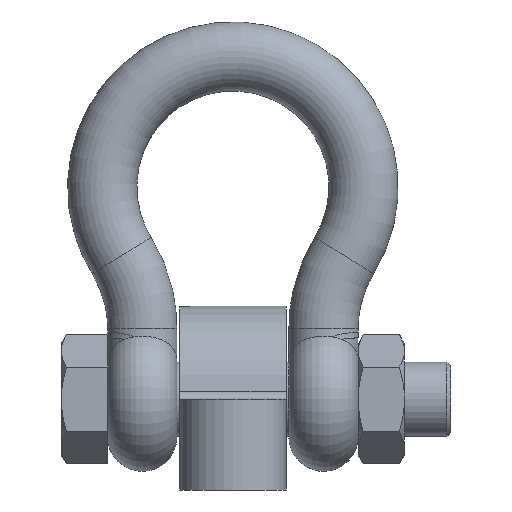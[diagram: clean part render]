
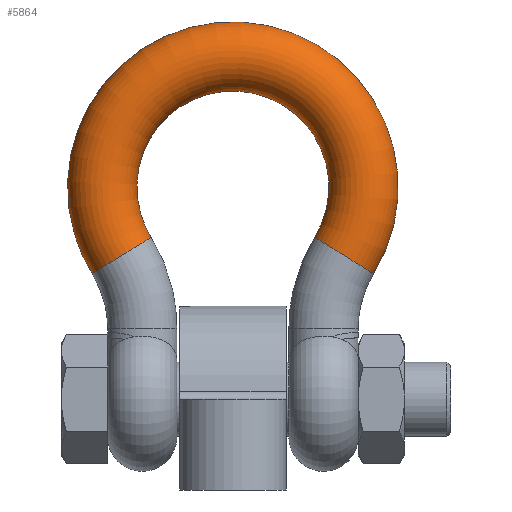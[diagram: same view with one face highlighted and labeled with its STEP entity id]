
A CAD part, left-side view. The second image highlights one B-rep face of the part: STEP entity #5864.
In plain terms, the highlighted toroidal (fillet/blend) face has major radius 122.5 mm and minor radius 32.5 mm.
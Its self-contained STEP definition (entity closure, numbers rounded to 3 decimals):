
#25=TOROIDAL_SURFACE('',#6249,122.5,32.5);
#452=FACE_BOUND('',#1272,.T.);
#541=CIRCLE('',#6231,32.5);
#548=CIRCLE('',#6245,32.5);
#895=FACE_OUTER_BOUND('',#1271,.T.);
#1271=EDGE_LOOP('',(#5330));
#1272=EDGE_LOOP('',(#5331));
#2819=VERTEX_POINT('',#10906);
#2823=VERTEX_POINT('',#10938);
#3649=EDGE_CURVE('',#2819,#2819,#541,.T.);
#3658=EDGE_CURVE('',#2823,#2823,#548,.T.);
#5330=ORIENTED_EDGE('',*,*,#3649,.T.);
#5331=ORIENTED_EDGE('',*,*,#3658,.T.);
#5864=ADVANCED_FACE('',(#895,#452),#25,.T.);
#6231=AXIS2_PLACEMENT_3D('',#10907,#7383,#7384);
#6245=AXIS2_PLACEMENT_3D('',#10939,#7411,#7412);
#6249=AXIS2_PLACEMENT_3D('',#10943,#7419,#7420);
#7383=DIRECTION('center_axis',(-0.524,0.851,0.));
#7384=DIRECTION('ref_axis',(-0.851,-0.524,0.));
#7411=DIRECTION('center_axis',(0.524,0.851,0.));
#7412=DIRECTION('ref_axis',(0.851,-0.524,0.));
#7419=DIRECTION('center_axis',(0.,0.,1.));
#7420=DIRECTION('ref_axis',(-1.,0.,0.));
#10906=CARTESIAN_POINT('',(-76.634,151.806,0.));
#10907=CARTESIAN_POINT('Origin',(-104.307,134.764,0.));
#10938=CARTESIAN_POINT('',(76.634,151.806,0.));
#10939=CARTESIAN_POINT('Origin',(104.307,134.764,0.));
#10943=CARTESIAN_POINT('Origin',(0.,199.,0.));
